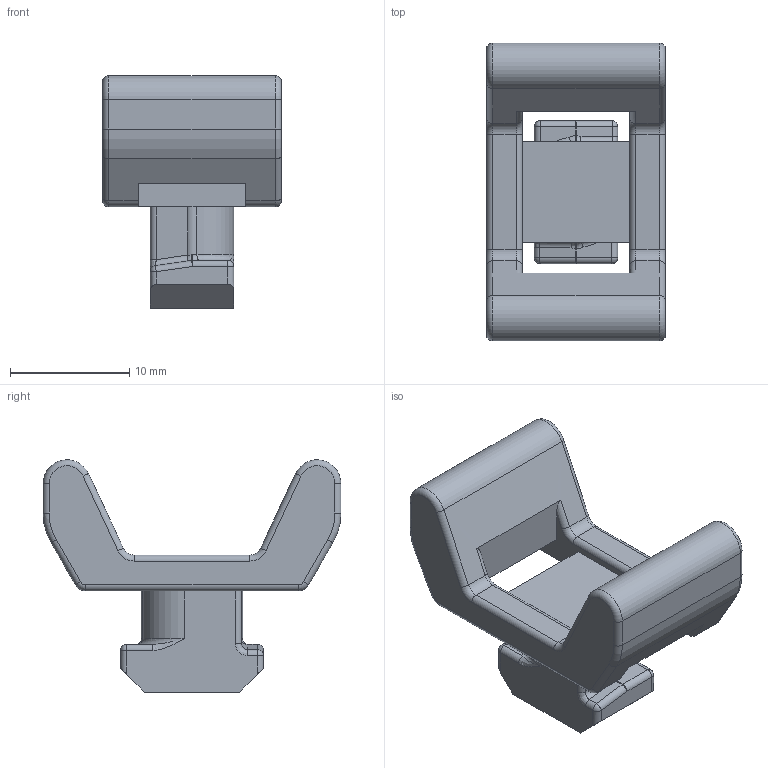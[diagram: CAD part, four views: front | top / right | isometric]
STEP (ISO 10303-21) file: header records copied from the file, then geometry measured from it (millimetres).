
FILE_DESCRIPTION (( 'STEP AP214' ), '1' );
FILE_NAME ('1.3047 Kaapelikiinnike 45.STEP', '2025-09-09T08:00:29', ( '' ), ( '' ), 'SwSTEP 2.0', 'SolidWorks 2025', '' );
FILE_SCHEMA (( 'AUTOMOTIVE_DESIGN' ));
Length unit declared in the file: millimetre
Products named in the file (1): 1.3047 Kaapelikiinnike 45
Bounding box: 15 x 25 x 19.5 mm (x, y, z)
Volume: 2252.9 mm3; surface area: 1708.4 mm2
Topology: 1 solids, 1 shells, 130 faces, 334 edges, 194 vertices
Faces by surface type: cylinder 56, plane 36, torus 24, bspline 8, sphere 6
Entity records: 4157 total; most frequent: CARTESIAN_POINT 1052, DIRECTION 664, ORIENTED_EDGE 652, EDGE_CURVE 326, AXIS2_PLACEMENT_3D 251, VERTEX_POINT 194, VECTOR 162, LINE 162
